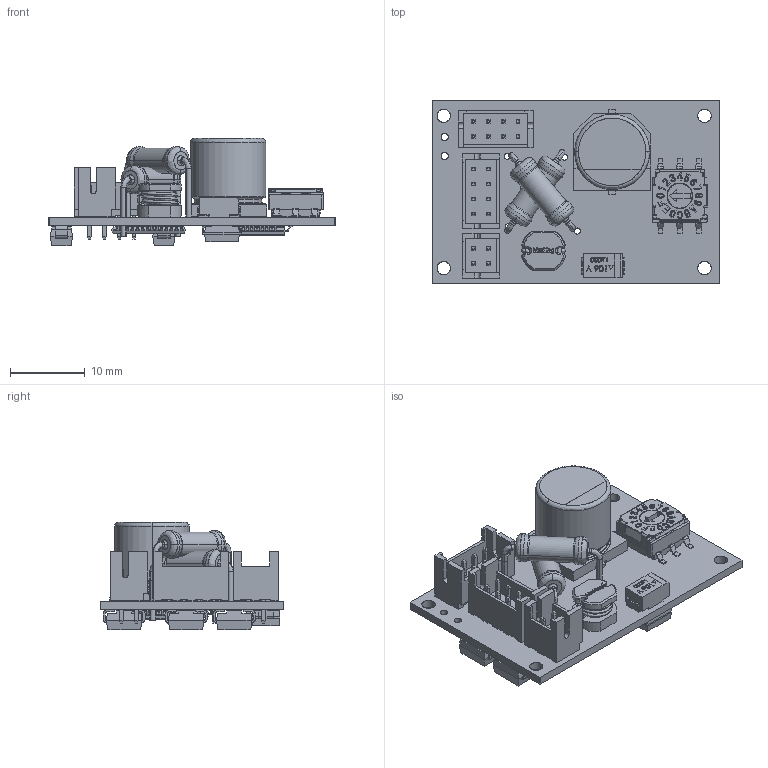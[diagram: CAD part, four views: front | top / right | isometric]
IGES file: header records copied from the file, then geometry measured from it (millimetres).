
Start section: SolidWorks IGES file using analytic representation for surfaces
Global section: file name: C:DocumentDocumentDocumentDocumentDocumentDocumentDoDoc\EZ10EN.IGS; native system: SolidWorks 2015; preprocessor: SolidWorks 2015; author: UserUser; date: 160622.143125; units: millimetre
Bounding box: 38.25 x 24.54 x 14.32 mm (x, y, z)
Surface area: 5699.1 mm2 (no closed solid volume)
Topology: 0 solids, 0 shells, 4045 faces, 27697 edges, 27695 vertices
Faces by surface type: bspline 3279, revolution 766
